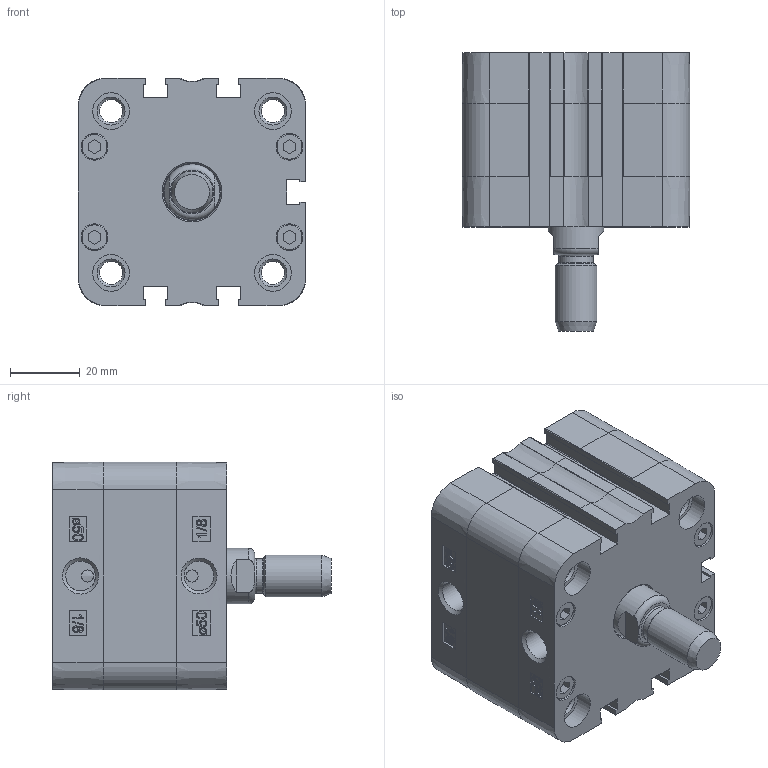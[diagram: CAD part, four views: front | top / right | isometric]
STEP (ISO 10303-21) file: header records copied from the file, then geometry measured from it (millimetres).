
FILE_DESCRIPTION((''),'2;1');
FILE_NAME('T:\Archivio Inventor\- CATALOGHI 2012\SERIE P - NUOVA\PDM\PDM050\PDM050.---.GS.M\PDM050.005.GS.M.stp','2013-02-01T10:49:10',('Administrator'),(''),'Autodesk Inventor 2012','Autodesk Inventor 2012','');
FILE_SCHEMA(('CONFIG_CONTROL_DESIGN'));
Length unit declared in the file: millimetre
Products named in the file (1): PDM050.005.GS.M
Bounding box: 65.5 x 80 x 65.5 mm (x, y, z)
Volume: 136253 mm3; surface area: 51889.5 mm2
Topology: 2 solids, 6 shells, 780 faces, 1860 edges, 1167 vertices
Faces by surface type: plane 335, bspline 196, cylinder 131, torus 56, cone 46, sphere 16
Full cylindrical faces by diameter (mm): 3.5 x2, 5.2 x4, 6.647 x8, 7.5 x8, 7.7 x8, 8.047 x4, 8.566 x2, 10 x1, 10.5 x8, 12 x2, 16 x1, 16.5 x1, 50 x1, 52.4 x1, 52.6 x1
Entity records: 25577 total; most frequent: CARTESIAN_POINT 8462, ORIENTED_EDGE 3488, DIRECTION 2866, EDGE_CURVE 1744, VERTEX_POINT 1148, AXIS2_PLACEMENT_3D 978, EDGE_LOOP 962, VECTOR 910
